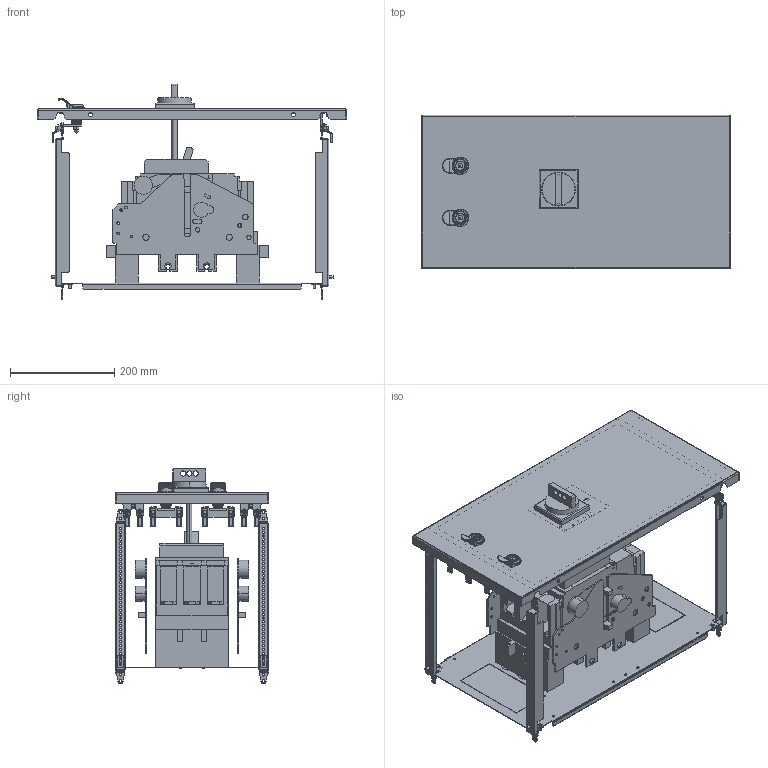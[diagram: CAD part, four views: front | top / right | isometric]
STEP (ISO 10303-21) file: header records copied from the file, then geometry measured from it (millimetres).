
FILE_DESCRIPTION(('CAx-IF Rec.Pracs.---Model Styling and Organization---1.2---2011-12-15','CAx-IF Rec.Pracs.---Geometric and Assembly Validation Properties---4.1---2014-06-16','CAx-IF Rec.Pracs.---PMI Polyline Presentation---2.0---2013-05-24'),'2;1');
FILE_NAME('R5PKEB7H61516.stp','2021-07-29T02:09:41+03:00',(''),(''),'STEP Interface 4.4 by CT CoreTechnologie','3D_Evolution4.4 by CT CoreTechnologie','');
FILE_SCHEMA(('AUTOMOTIVE_DESIGN { 1 0 10303 214 1 1 1 1 }'));
Length unit declared in the file: millimetre
Products named in the file (1): R5PKEB7H61516
Bounding box: 594 x 295 x 413.9 mm (x, y, z)
Surface area: 1707112 mm2 (no closed solid volume)
Topology: 0 solids, 111 shells, 4031 faces, 11010 edges, 7209 vertices
Faces by surface type: plane 1642, cylinder 1470, bspline 919
Entity records: 146900 total; most frequent: CARTESIAN_POINT 44564, ORIENTED_EDGE 21894, DIRECTION 20789, EDGE_CURVE 10956, AXIS2_PLACEMENT_3D 7250, VERTEX_POINT 7211, VECTOR 6289, LINE 6289
